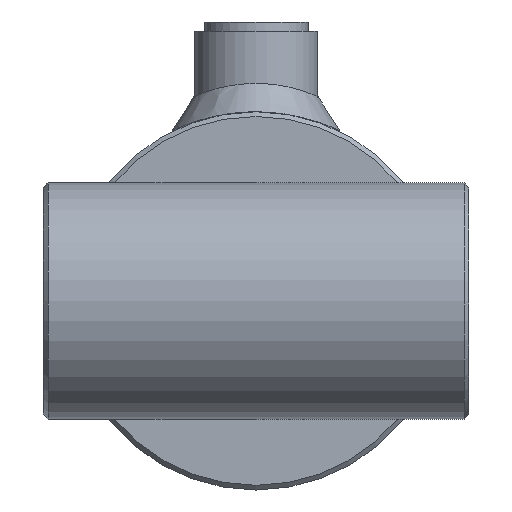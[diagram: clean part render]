
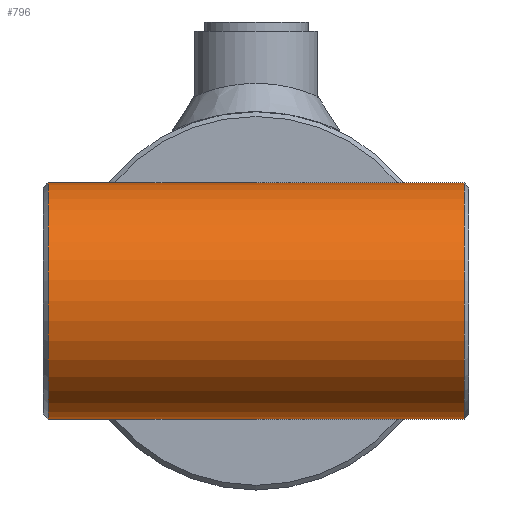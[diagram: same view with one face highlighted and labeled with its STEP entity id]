
A CAD part, left-side view. The second image highlights one B-rep face of the part: STEP entity #796.
In plain terms, the highlighted cylindrical face has radius 25 mm (diameter 50 mm), a full revolution.
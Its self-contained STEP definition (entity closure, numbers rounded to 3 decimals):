
#796 = ADVANCED_FACE( '', ( #1508, #1509 ), #1510, .T. );
#1508 = FACE_OUTER_BOUND( '', #3445, .T. );
#1509 = FACE_OUTER_BOUND( '', #3446, .T. );
#1510 = CYLINDRICAL_SURFACE( '', #3447, 25. );
#3445 = EDGE_LOOP( '', ( #11546 ) );
#3446 = EDGE_LOOP( '', ( #11547 ) );
#3447 = AXIS2_PLACEMENT_3D( '', #11548, #11549, #11550 );
#11546 = ORIENTED_EDGE( '', *, *, #12986, .T. );
#11547 = ORIENTED_EDGE( '', *, *, #12987, .T. );
#11548 = CARTESIAN_POINT( '', ( 0., -45., 0. ) );
#11549 = DIRECTION( '', ( 0., -1., 0. ) );
#11550 = DIRECTION( '', ( 0., 0., 1. ) );
#12986 = EDGE_CURVE( '', #13827, #13827, #13828, .F. );
#12987 = EDGE_CURVE( '', #13829, #13829, #13830, .T. );
#13827 = VERTEX_POINT( '', #15207 );
#13828 = CIRCLE( '', #15208, 25. );
#13829 = VERTEX_POINT( '', #15209 );
#13830 = CIRCLE( '', #15210, 25. );
#15207 = CARTESIAN_POINT( '', ( 0., 44., 25. ) );
#15208 = AXIS2_PLACEMENT_3D( '', #18104, #18105, #18106 );
#15209 = CARTESIAN_POINT( '', ( 0., -44., 25. ) );
#15210 = AXIS2_PLACEMENT_3D( '', #18107, #18108, #18109 );
#18104 = CARTESIAN_POINT( '', ( 0., 44., 0. ) );
#18105 = DIRECTION( '', ( 0., 1., 0. ) );
#18106 = DIRECTION( '', ( 0., 0., 1. ) );
#18107 = CARTESIAN_POINT( '', ( 0., -44., 0. ) );
#18108 = DIRECTION( '', ( 0., 1., 0. ) );
#18109 = DIRECTION( '', ( 0., 0., 1. ) );
